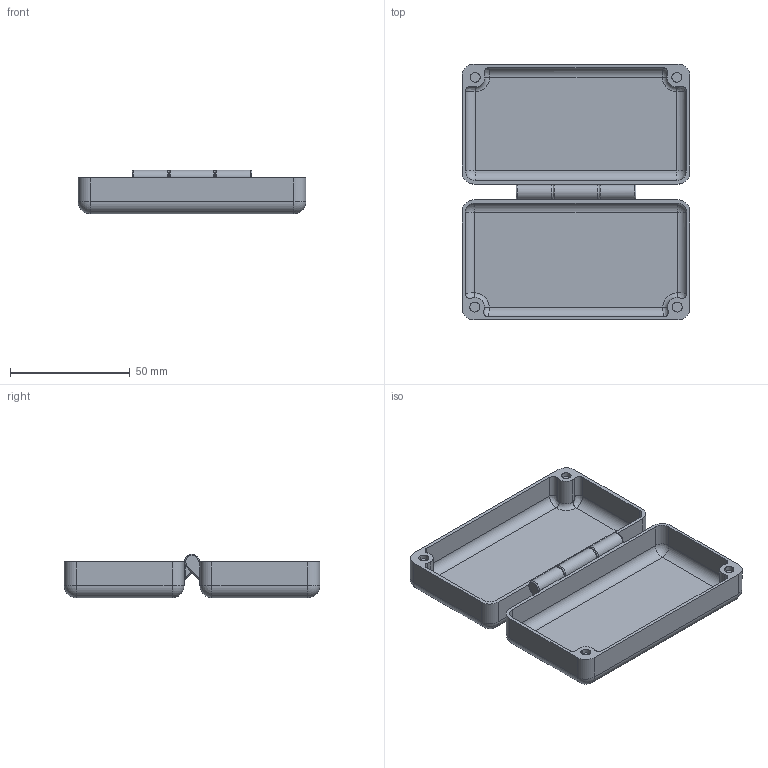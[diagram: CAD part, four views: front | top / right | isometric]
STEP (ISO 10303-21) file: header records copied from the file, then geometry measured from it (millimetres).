
FILE_DESCRIPTION (( 'STEP AP214' ), '1' );
FILE_NAME ('Assem_PRINT_tight tolerance.STEP', '2023-04-29T06:42:29', ( '' ), ( '' ), 'SwSTEP 2.0', 'SolidWorks 2018', '' );
FILE_SCHEMA (( 'AUTOMOTIVE_DESIGN' ));
Length unit declared in the file: millimetre
Products named in the file (3): BOXXXXXX_UP; BOXXXXXX_DOWN; Assem_PRINT_tight tolerance
Assembly tree (2 placements, depth 2):
  Assem_PRINT_tight tolerance
    BOXXXXXX_DOWN
    BOXXXXXX_UP
Bounding box: 95 x 106.6 x 18.1 mm (x, y, z)
Volume: 28372.5 mm3; surface area: 33584.1 mm2
Topology: 2 solids, 2 shells, 168 faces, 394 edges, 226 vertices
Faces by surface type: cylinder 68, plane 41, torus 27, sphere 12, bspline 12, cone 8
Entity records: 5457 total; most frequent: CARTESIAN_POINT 1559, DIRECTION 869, ORIENTED_EDGE 760, EDGE_CURVE 380, AXIS2_PLACEMENT_3D 356, VERTEX_POINT 226, CIRCLE 195, EDGE_LOOP 178
